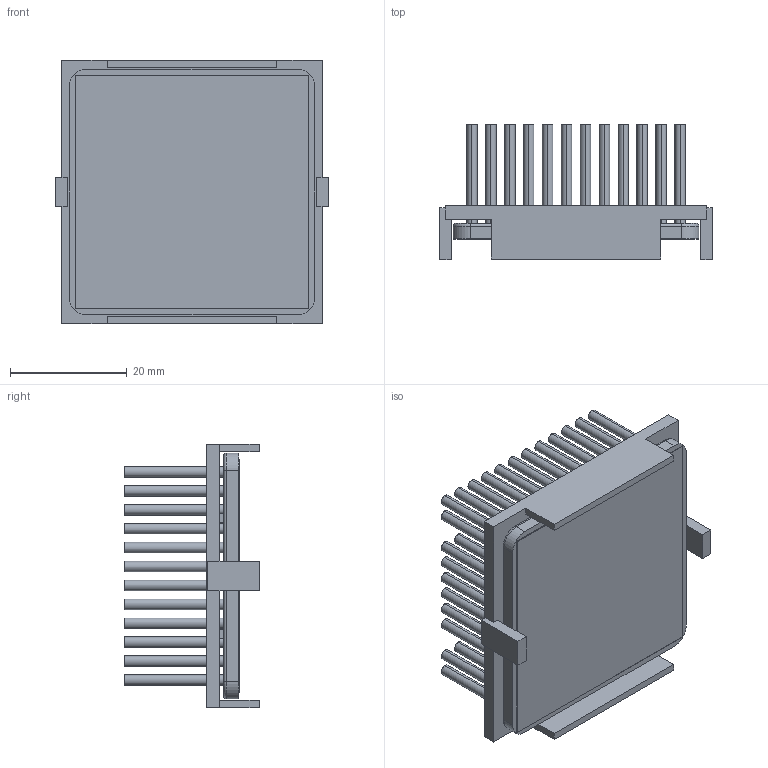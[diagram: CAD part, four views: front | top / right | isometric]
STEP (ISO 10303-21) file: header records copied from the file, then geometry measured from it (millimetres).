
FILE_DESCRIPTION (( 'STEP AP214' ), '1' );
FILE_NAME ('INM42.5002-20P-2.6Y.STEP', '2023-02-28T00:23:06', ( '' ), ( '' ), 'SwSTEP 2.0', 'SolidWorks 2020', '' );
FILE_SCHEMA (( 'AUTOMOTIVE_DESIGN' ));
Length unit declared in the file: inch
Products named in the file (1): INM42.5002-20P-2.6Y
Bounding box: 46.7 x 23.2 x 45.1 mm (x, y, z)
Volume: 12772 mm3; surface area: 23437.5 mm2
Topology: 3 solids, 3 shells, 486 faces, 1024 edges, 680 vertices
Faces by surface type: cylinder 280, plane 202, torus 4
Entity records: 19652 total; most frequent: DIRECTION 2562, CARTESIAN_POINT 2191, ORIENTED_EDGE 2048, AXIS2_PLACEMENT_3D 1051, EDGE_CURVE 1024, VERTEX_POINT 680, EDGE_LOOP 624, CIRCLE 564
